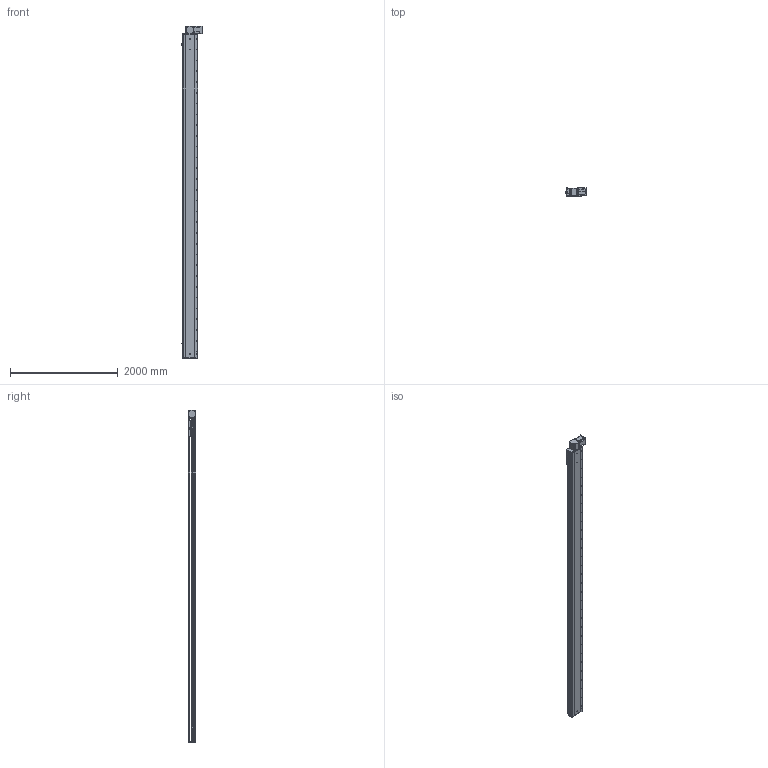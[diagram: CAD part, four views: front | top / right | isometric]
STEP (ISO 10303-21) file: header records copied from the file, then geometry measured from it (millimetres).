
FILE_DESCRIPTION (( 'STEP AP214' ), '1' );
FILE_NAME ('RTB28S-XX-5550-BL-M100-XX-C4.STEP', '2025-12-22T02:56:31', ( '' ), ( '' ), 'SwSTEP 2.0', 'SolidWorks 2018', '' );
FILE_SCHEMA (( 'AUTOMOTIVE_DESIGN' ));
Length unit declared in the file: millimetre
Products named in the file (4): RTB28S-XX-5550-BL-M100-XX-C4; RTB28S-GY-008^RTB28S-XX-XX-BL-M100-XX-C4; RTB28S-GY-011^RTB28S-XX-XX-BL-M100-XX-C4; RTB28S-GY-004^RTB28S-XX-XX-BL-M100-XX-C4
Assembly tree (3 placements, depth 2):
  RTB28S-XX-5550-BL-M100-XX-C4
    RTB28S-GY-011^RTB28S-XX-XX-BL-M100-XX-C4
    RTB28S-GY-004^RTB28S-XX-XX-BL-M100-XX-C4
    RTB28S-GY-008^RTB28S-XX-XX-BL-M100-XX-C4
Bounding box: 380.7 x 145 x 6157 mm (x, y, z)
Volume: 101261983.6 mm3; surface area: 9328783.5 mm2
Topology: 3 solids, 4 shells, 1018 faces, 2778 edges, 1788 vertices
Faces by surface type: cylinder 543, plane 391, cone 80, torus 4
Entity records: 40691 total; most frequent: CARTESIAN_POINT 8452, DIRECTION 5940, ORIENTED_EDGE 5492, EDGE_CURVE 2746, AXIS2_PLACEMENT_3D 2240, VERTEX_POINT 1788, LINE 1460, VECTOR 1460
